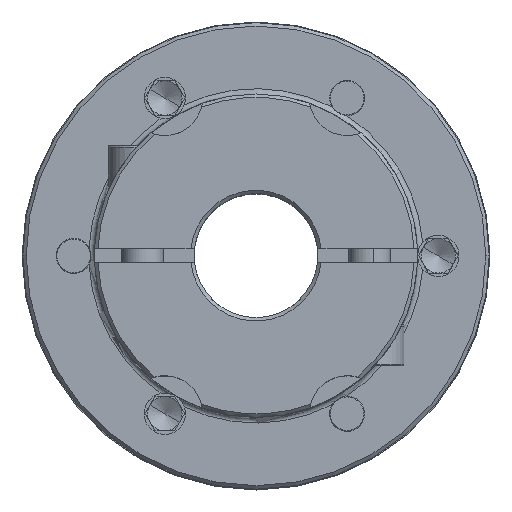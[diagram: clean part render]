
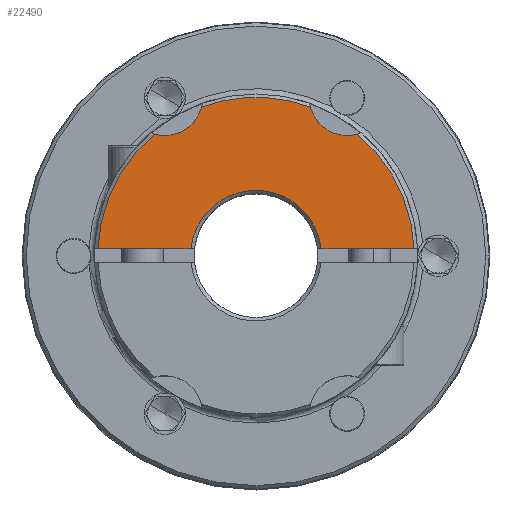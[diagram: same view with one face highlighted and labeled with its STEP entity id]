
A CAD part, top view. The second image highlights one B-rep face of the part: STEP entity #22490.
In plain terms, the highlighted planar face has unit normal (0, 0, 1).
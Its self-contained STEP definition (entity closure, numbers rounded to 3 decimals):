
#377 = CIRCLE ( 'NONE', #21399, 23. ) ;
#509 = ORIENTED_EDGE ( 'NONE', *, *, #21936, .T. ) ;
#759 = CIRCLE ( 'NONE', #7907, 23. ) ;
#1222 = VECTOR ( 'NONE', #21625, 1000. ) ;
#1529 = CIRCLE ( 'NONE', #18781, 5.5 ) ;
#1778 = CARTESIAN_POINT ( 'NONE',  ( 0., 0., 27.95 ) ) ;
#2380 = DIRECTION ( 'NONE',  ( 1., 0., 0. ) ) ;
#2435 = CARTESIAN_POINT ( 'NONE',  ( 22.978, 1., 27.95 ) ) ;
#2437 = CARTESIAN_POINT ( 'NONE',  ( -34., 1., 27.95 ) ) ;
#2491 = FACE_OUTER_BOUND ( 'NONE', #11979, .T. ) ;
#2923 = CARTESIAN_POINT ( 'NONE',  ( -7.92, 21.593, 27.95 ) ) ;
#2997 = ORIENTED_EDGE ( 'NONE', *, *, #18002, .F. ) ;
#3681 = CARTESIAN_POINT ( 'NONE',  ( -14.741, 17.655, 27.95 ) ) ;
#4283 = DIRECTION ( 'NONE',  ( 1., 0., 0. ) ) ;
#4786 = ORIENTED_EDGE ( 'NONE', *, *, #16809, .F. ) ;
#4793 = DIRECTION ( 'NONE',  ( 0., 0., 1. ) ) ;
#5108 = CARTESIAN_POINT ( 'NONE',  ( 9.447, 1., 27.95 ) ) ;
#6257 = AXIS2_PLACEMENT_3D ( 'NONE', #19370, #12229, #6940 ) ;
#6505 = CARTESIAN_POINT ( 'NONE',  ( -9.447, 1., 27.95 ) ) ;
#6846 = CARTESIAN_POINT ( 'NONE',  ( 14.741, 17.655, 27.95 ) ) ;
#6940 = DIRECTION ( 'NONE',  ( 0.5, 0.866, 0. ) ) ;
#7701 = CARTESIAN_POINT ( 'NONE',  ( 7.92, 21.593, 27.95 ) ) ;
#7815 = DIRECTION ( 'NONE',  ( 0., 0., -1. ) ) ;
#7907 = AXIS2_PLACEMENT_3D ( 'NONE', #1778, #21630, #12601 ) ;
#8571 = VERTEX_POINT ( 'NONE', #5108 ) ;
#8904 = VERTEX_POINT ( 'NONE', #6505 ) ;
#9108 = DIRECTION ( 'NONE',  ( 0., 0., 1. ) ) ;
#9219 = DIRECTION ( 'NONE',  ( 1., 0., 0. ) ) ;
#9446 = AXIS2_PLACEMENT_3D ( 'NONE', #23201, #4793, #21229 ) ;
#9764 = AXIS2_PLACEMENT_3D ( 'NONE', #22346, #13069, #18464 ) ;
#9775 = VERTEX_POINT ( 'NONE', #6846 ) ;
#10132 = VERTEX_POINT ( 'NONE', #2923 ) ;
#11112 = DIRECTION ( 'NONE',  ( 0., 0., 1. ) ) ;
#11225 = DIRECTION ( 'NONE',  ( 1., 0., 0. ) ) ;
#11437 = VERTEX_POINT ( 'NONE', #21248 ) ;
#11979 = EDGE_LOOP ( 'NONE', ( #21773, #20627, #15687, #16428, #12076, #4786, #509, #2997 ) ) ;
#12076 = ORIENTED_EDGE ( 'NONE', *, *, #16183, .T. ) ;
#12229 = DIRECTION ( 'NONE',  ( 0., 0., 1. ) ) ;
#12290 = VERTEX_POINT ( 'NONE', #3681 ) ;
#12375 = EDGE_CURVE ( 'NONE', #8571, #20861, #18932, .T. ) ;
#12601 = DIRECTION ( 'NONE',  ( 1., 0., 0. ) ) ;
#12740 = EDGE_CURVE ( 'NONE', #11437, #8904, #16221, .T. ) ;
#13069 = DIRECTION ( 'NONE',  ( 0., 0., 1. ) ) ;
#14632 = CARTESIAN_POINT ( 'NONE',  ( 0., 0., 27.95 ) ) ;
#15687 = ORIENTED_EDGE ( 'NONE', *, *, #16961, .T. ) ;
#16183 = EDGE_CURVE ( 'NONE', #20861, #9775, #759, .T. ) ;
#16221 = LINE ( 'NONE', #2437, #1222 ) ;
#16428 = ORIENTED_EDGE ( 'NONE', *, *, #12375, .T. ) ;
#16554 = CIRCLE ( 'NONE', #9446, 23. ) ;
#16809 = EDGE_CURVE ( 'NONE', #18922, #9775, #1529, .T. ) ;
#16961 = EDGE_CURVE ( 'NONE', #8904, #8571, #18802, .T. ) ;
#17072 = CARTESIAN_POINT ( 'NONE',  ( 0., 0., 27.95 ) ) ;
#17348 = EDGE_CURVE ( 'NONE', #12290, #11437, #16554, .T. ) ;
#18002 = EDGE_CURVE ( 'NONE', #12290, #10132, #20508, .T. ) ;
#18464 = DIRECTION ( 'NONE',  ( 1., 0., 0. ) ) ;
#18781 = AXIS2_PLACEMENT_3D ( 'NONE', #19323, #9108, #9219 ) ;
#18802 = CIRCLE ( 'NONE', #22179, 9.5 ) ;
#18819 = PLANE ( 'NONE',  #9764 ) ;
#18820 = CARTESIAN_POINT ( 'NONE',  ( -34., 1., 27.95 ) ) ;
#18922 = VERTEX_POINT ( 'NONE', #7701 ) ;
#18932 = LINE ( 'NONE', #18820, #21474 ) ;
#19323 = CARTESIAN_POINT ( 'NONE',  ( 13.25, 22.95, 27.95 ) ) ;
#19370 = CARTESIAN_POINT ( 'NONE',  ( -13.25, 22.95, 27.95 ) ) ;
#20508 = CIRCLE ( 'NONE', #6257, 5.5 ) ;
#20627 = ORIENTED_EDGE ( 'NONE', *, *, #12740, .T. ) ;
#20861 = VERTEX_POINT ( 'NONE', #2435 ) ;
#21229 = DIRECTION ( 'NONE',  ( 1., 0., 0. ) ) ;
#21248 = CARTESIAN_POINT ( 'NONE',  ( -22.978, 1., 27.95 ) ) ;
#21399 = AXIS2_PLACEMENT_3D ( 'NONE', #14632, #11112, #11225 ) ;
#21474 = VECTOR ( 'NONE', #2380, 1000. ) ;
#21625 = DIRECTION ( 'NONE',  ( 1., 0., 0. ) ) ;
#21630 = DIRECTION ( 'NONE',  ( 0., 0., 1. ) ) ;
#21773 = ORIENTED_EDGE ( 'NONE', *, *, #17348, .T. ) ;
#21936 = EDGE_CURVE ( 'NONE', #18922, #10132, #377, .T. ) ;
#22179 = AXIS2_PLACEMENT_3D ( 'NONE', #17072, #7815, #4283 ) ;
#22346 = CARTESIAN_POINT ( 'NONE',  ( 0., 0., 27.95 ) ) ;
#22490 = ADVANCED_FACE ( 'NONE', ( #2491 ), #18819, .T. ) ;
#23201 = CARTESIAN_POINT ( 'NONE',  ( 0., 0., 27.95 ) ) ;
